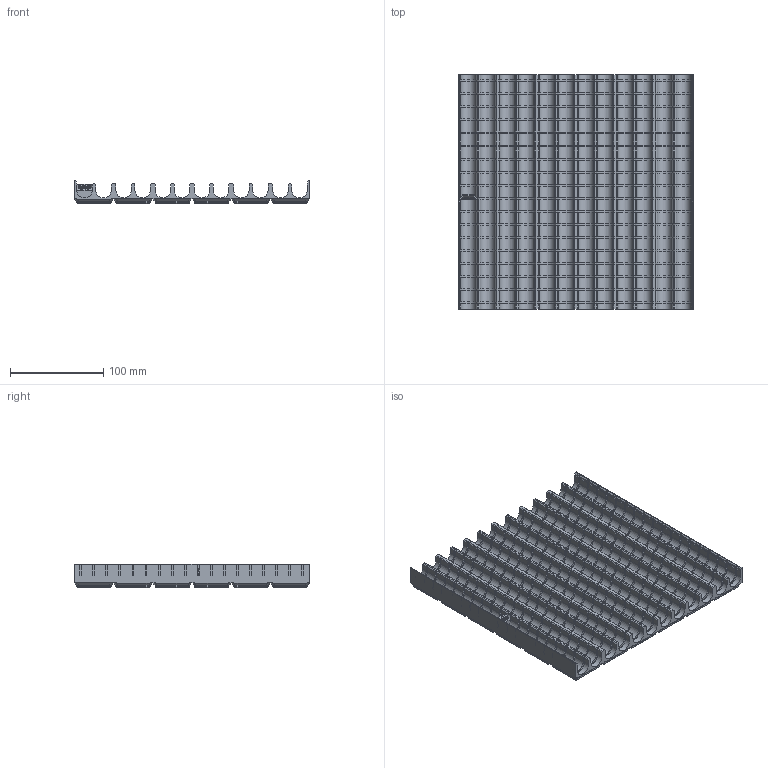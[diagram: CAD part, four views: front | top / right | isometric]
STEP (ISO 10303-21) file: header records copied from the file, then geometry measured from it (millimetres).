
FILE_DESCRIPTION(/* description */ (''),/* implementation_level */ '2;1');
FILE_NAME(/* name */ 'Bitfinity_0.5U_3H.step',/* time_stamp */ '2025-12-19T11:01:29+01:00',/* author */ (''),/* organization */ (''),/* preprocessor_version */ 'ST-DEVELOPER v20.1',/* originating_system */ 'Autodesk Translation Framework v14.21.0.0',/* authorisation */ '');
FILE_SCHEMA (('AUTOMOTIVE_DESIGN { 1 0 10303 214 3 1 1 }'));
Products named in the file (3): Bitfinity_0.5U_3H; Bitfinity 1x1x3; Divider
Assembly tree (2 placements, depth 3):
  Bitfinity_0.5U_3H
    Bitfinity 1x1x3
      Divider
Bounding box: 252 x 252 x 24.8 mm (x, y, z)
Volume: 588328.8 mm3; surface area: 252528.8 mm2
Topology: 5 solids, 5 shells, 3356 faces, 9186 edges, 5840 vertices
Faces by surface type: plane 2396, cylinder 589, cone 290, bspline 81
Entity records: 105257 total; most frequent: CARTESIAN_POINT 19800, ORIENTED_EDGE 18372, DIRECTION 17079, EDGE_CURVE 9186, LINE 7513, VECTOR 7513, VERTEX_POINT 5840, AXIS2_PLACEMENT_3D 4783
